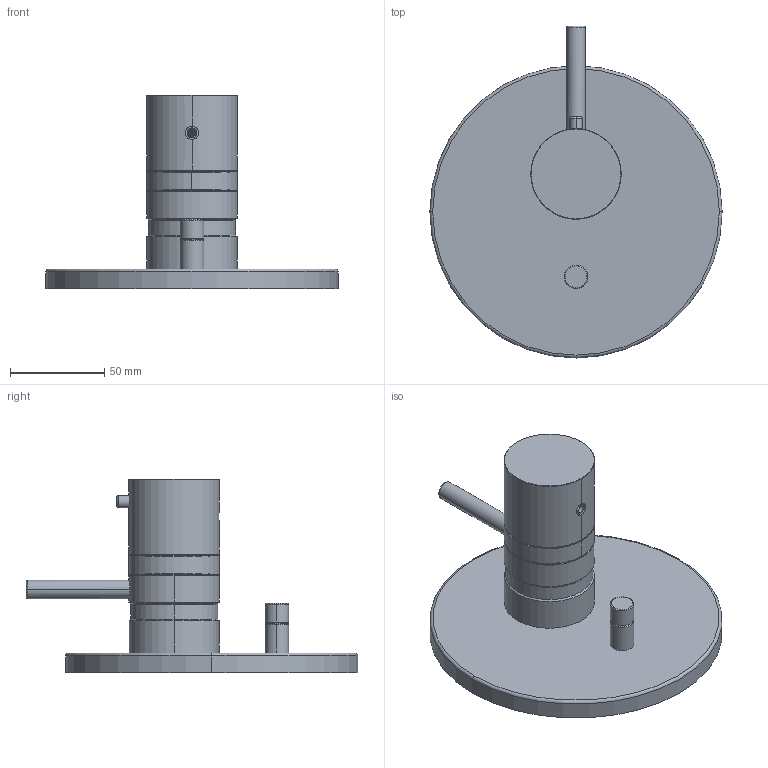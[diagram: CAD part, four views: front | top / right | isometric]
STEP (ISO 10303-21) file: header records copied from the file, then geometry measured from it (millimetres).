
FILE_DESCRIPTION((''),'2;1');
FILE_NAME('F4039X2_FILE_3D','2013-09-27T',('ivanv'),(''),'PRO/ENGINEER BY PARAMETRIC TECHNOLOGY CORPORATION, 2012130','PRO/ENGINEER BY PARAMETRIC TECHNOLOGY CORPORATION, 2012130','');
FILE_SCHEMA(('CONFIG_CONTROL_DESIGN'));
Length unit declared in the file: millimetre
Products named in the file (1): F4039X2_FILE_3D
Bounding box: 155 x 176 x 102.8 mm (x, y, z)
Volume: 271387.3 mm3; surface area: 83759.2 mm2
Topology: 3 solids, 4 shells, 511 faces, 1351 edges, 866 vertices
Faces by surface type: plane 245, cylinder 190, cone 56, torus 20
Entity records: 17633 total; most frequent: CARTESIAN_POINT 5233, ORIENTED_EDGE 2690, DIRECTION 2472, EDGE_CURVE 1345, AXIS2_PLACEMENT_3D 946, VERTEX_POINT 866, VECTOR 580, LINE 580
